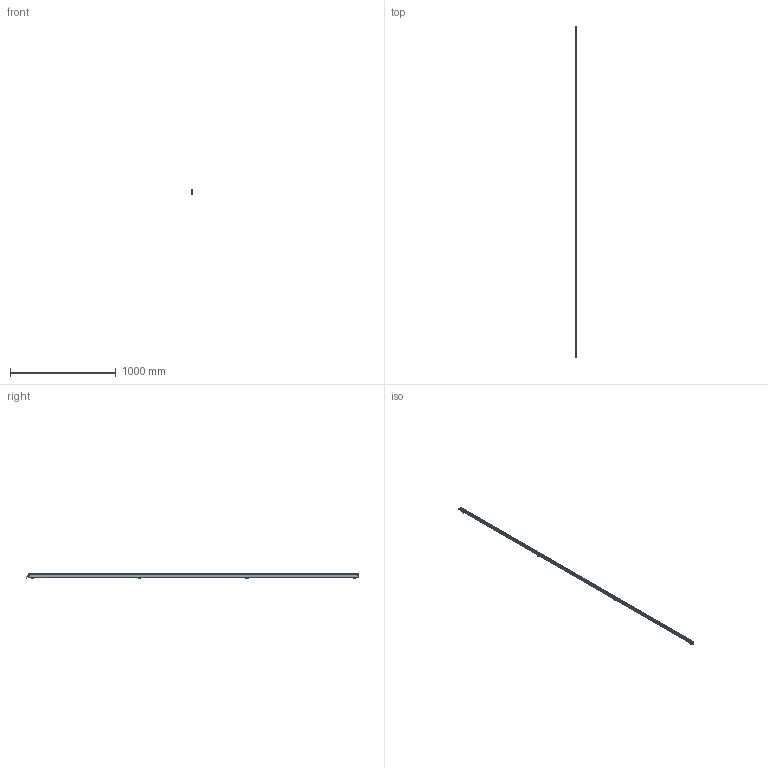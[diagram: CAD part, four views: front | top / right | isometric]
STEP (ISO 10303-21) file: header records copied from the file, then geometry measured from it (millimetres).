
FILE_DESCRIPTION (( 'STEP AP214' ), '1' );
FILE_NAME ('ILG-N-K1-3114mm.STEP', '2017-07-10T13:45:02', ( '' ), ( '' ), 'SwSTEP 2.0', 'SolidWorks 2016', '' );
FILE_SCHEMA (( 'AUTOMOTIVE_DESIGN' ));
Length unit declared in the file: millimetre
Products named in the file (1): ILG-N-K1-3114mm
Bounding box: 10.16 x 3142.25 x 42.41 mm (x, y, z)
Volume: 347626.3 mm3; surface area: 516151.8 mm2
Topology: 13 solids, 13 shells, 573 faces, 1449 edges, 896 vertices
Faces by surface type: plane 329, cylinder 170, cone 64, torus 10
Entity records: 23504 total; most frequent: CARTESIAN_POINT 3067, DIRECTION 2993, ORIENTED_EDGE 2882, EDGE_CURVE 1441, AXIS2_PLACEMENT_3D 1030, VECTOR 933, LINE 933, VERTEX_POINT 896
